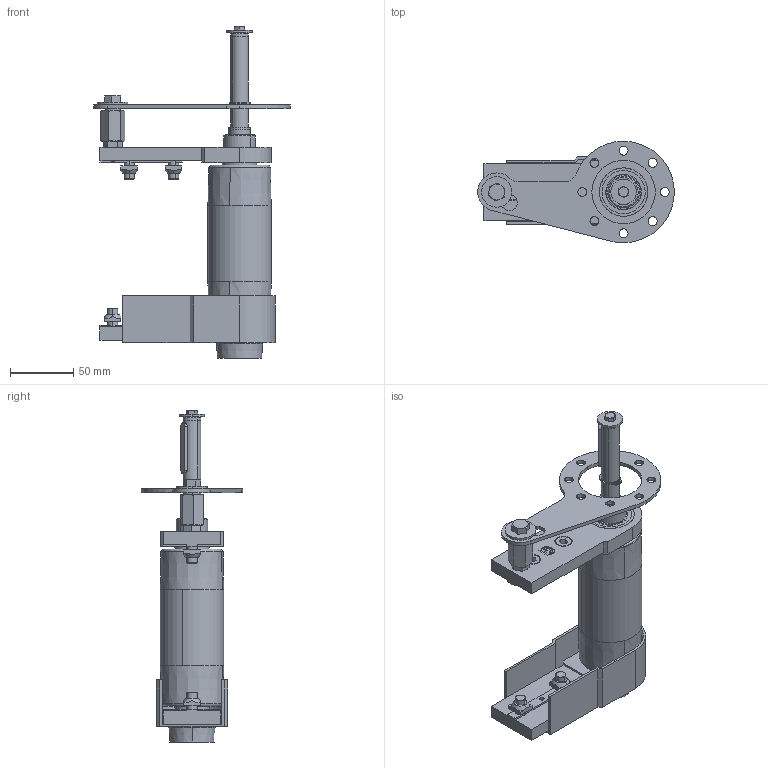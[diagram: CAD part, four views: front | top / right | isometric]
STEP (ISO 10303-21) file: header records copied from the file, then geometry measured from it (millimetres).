
FILE_DESCRIPTION (( 'STEP AP214' ), '1' );
FILE_NAME ('084.050.KDC.30.100.STEP', '2019-08-06T12:02:34', ( '' ), ( '' ), 'SwSTEP 2.0', 'SolidWorks 2018', '' );
FILE_SCHEMA (( 'AUTOMOTIVE_DESIGN' ));
Length unit declared in the file: millimetre
Products named in the file (23): RONDELLE FASCIA LARGA UNI 6593_5.4x20 UNI 6593; RONDELLE FASCIA LARGA UNI 6593_8.4x24 UNI 6593; 084.811.001; TPU12-5; 084.815.101_Default<A macchina>; GRANI A PUNTA PIATTA UNI 5923_M8x20 UNI 5923; VITI TSEI UNI 5933_M4x12 UNI 5933; 084.811.004; DADI ESAGONALI RIBASSATI UNI 5589_M8 UNI 5589; 084.802.017_084.802.017; 084.302.000 DADI ALUSIC 13x13_084.302.004; 084.050.KDC.30.100; 084.301.000 VITI ALUSIC_084.301.003; 084.802.023_084.802.023; 084.802.027; 084.807.013_084.807.003; VITI TE UNI 5739_M8x25 UNI 5739; VITI TE UNI 5739_M5x12 UNI 5739; CHIAVETTE_A 5x5x40 UNI 6604-69; 084.807.005; Circlip DIN 471 - 14 x 1_Circlip DIN 471 - 14 x 1; 084.810.001; 084.807.004_084.807.004
Assembly tree (31 placements, depth 2):
  084.050.KDC.30.100
    084.807.004_084.807.004
    084.807.013_084.807.003
    084.802.017_084.802.017  x2
    084.811.004
    084.815.101_Default<A macchina>
    084.810.001  x2
    VITI TSEI UNI 5933_M4x12 UNI 5933  x2
    084.811.001
    084.802.027
    084.807.005
    084.802.023_084.802.023
    084.301.000 VITI ALUSIC_084.301.003  x4
    084.302.000 DADI ALUSIC 13x13_084.302.004  x4
    DADI ESAGONALI RIBASSATI UNI 5589_M8 UNI 5589
    RONDELLE FASCIA LARGA UNI 6593_5.4x20 UNI 6593
    VITI TE UNI 5739_M5x12 UNI 5739
    VITI TE UNI 5739_M8x25 UNI 5739
    RONDELLE FASCIA LARGA UNI 6593_8.4x24 UNI 6593
    GRANI A PUNTA PIATTA UNI 5923_M8x20 UNI 5923
    TPU12-5
    Circlip DIN 471 - 14 x 1_Circlip DIN 471 - 14 x 1
    CHIAVETTE_A 5x5x40 UNI 6604-69
Bounding box: 154.99 x 80 x 261.63 mm (x, y, z)
Volume: 331265.3 mm3; surface area: 199202.8 mm2
Topology: 33 solids, 35 shells, 892 faces, 2194 edges, 1416 vertices
Faces by surface type: plane 373, cylinder 277, cone 110, torus 70, bspline 54, sphere 8
Entity records: 22558 total; most frequent: CARTESIAN_POINT 4882, DIRECTION 3485, ORIENTED_EDGE 3384, EDGE_CURVE 1692, AXIS2_PLACEMENT_3D 1339, VERTEX_POINT 1096, LINE 807, VECTOR 807
